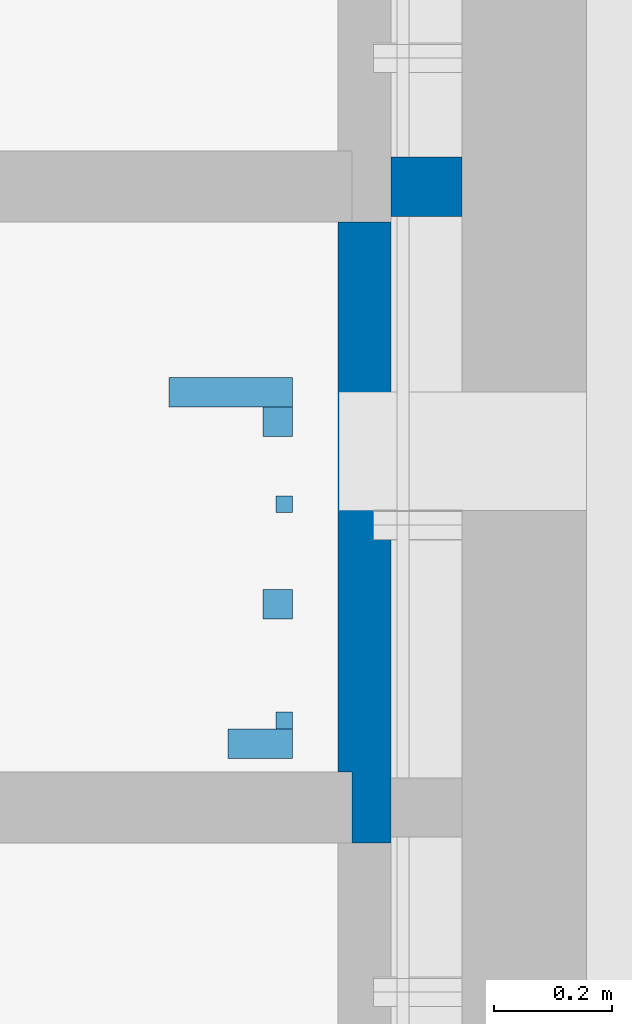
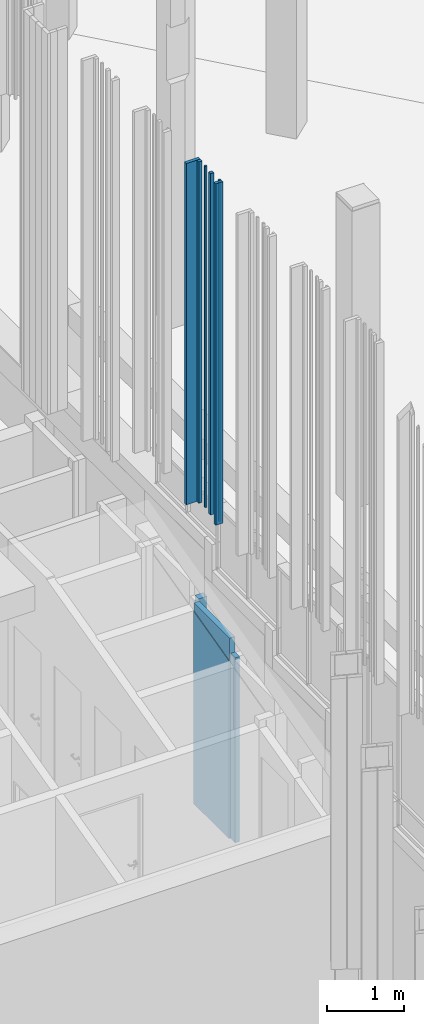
# One storey, part 123 of 390: 8 walls.
"""IFC2X3 building model written with IfcOpenShell, lengths in millimetres."""

from ifc_helpers import new_model, entity, si_unit, converted_unit, derived_unit, money_unit, direction, frame, origin_with_axes, place, context, subcontext, project, spatial, faceted_brep, material, material_list, type_object, element, save


model = new_model("IFC2X3")

# Units and contexts
model_context = context("Model", 3, precision=1e-05, world=origin_with_axes(), true_north=direction((0.0, 1.0)))
body_context = subcontext(model_context, "Body", "Model", "MODEL_VIEW")
ifc_project = project(units=[si_unit("LENGTHUNIT", "METRE", prefix="MILLI"), si_unit("AREAUNIT", "SQUARE_METRE"), si_unit("VOLUMEUNIT", "CUBIC_METRE"), converted_unit("PLANEANGLEUNIT", "DEGREE", entity("IfcPlaneAngleMeasure", 0.0174532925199), si_unit("PLANEANGLEUNIT", "RADIAN"), dimensions=[0, 0, 0, 0, 0, 0, 0]), si_unit("SOLIDANGLEUNIT", "STERADIAN"), money_unit("EUR"), converted_unit("TIMEUNIT", "Year", entity("IfcTimeMeasure", 31556926.0), si_unit("TIMEUNIT", "SECOND"), dimensions=[0, 0, 1, 0, 0, 0, 0]), si_unit("MASSUNIT", "GRAM", prefix="KILO"), si_unit("THERMODYNAMICTEMPERATUREUNIT", "DEGREE_CELSIUS"), si_unit("LUMINOUSINTENSITYUNIT", "LUMEN"), si_unit("ENERGYUNIT", "JOULE", prefix="MEGA"), derived_unit("THERMALCONDUCTANCEUNIT", [(si_unit("POWERUNIT", "WATT"), 1), (si_unit("LENGTHUNIT", "METRE"), -1), (si_unit("THERMODYNAMICTEMPERATUREUNIT", "KELVIN"), -1)]), derived_unit("SPECIFICHEATCAPACITYUNIT", [(si_unit("ENERGYUNIT", "JOULE"), 1), (si_unit("MASSUNIT", "GRAM", prefix="KILO"), -1), (si_unit("THERMODYNAMICTEMPERATUREUNIT", "KELVIN"), -1)]), derived_unit("MASSDENSITYUNIT", [(si_unit("MASSUNIT", "GRAM", prefix="KILO"), 1), (si_unit("VOLUMEUNIT", "CUBIC_METRE"), -1)])], contexts=[model_context])

# Site, building, storey
site_placement = place(None, origin_with_axes())
site = spatial("IfcSite", under=ifc_project, at=site_placement, Name="Site", CompositionType="ELEMENT")
building_placement = place(site_placement, origin_with_axes())
building = spatial("IfcBuilding", under=site, at=building_placement, Name="Building", CompositionType="ELEMENT")
storey_placement = place(building_placement, origin_with_axes())
storey = spatial("IfcBuildingStorey", under=building, at=storey_placement, Name="1 korrus", CompositionType="ELEMENT", Elevation=0.0)

# Walls
ifc_material_1 = material(Name="Müüriplokk - Konstuktsioon")
wall_type_1 = type_object("IfcWallType", Name="SS-09", PredefinedType="NOTDEFINED")
wall_1_placement = place(storey_placement, frame((122580.000001, 63210.00001, -620.0), z_axis=(0.0, 0.0, 1.0), x_axis=(1.0, 0.0, 0.0)))
element("IfcWall", 1, at=wall_1_placement, inside=storey, type_object=wall_type_1, material=ifc_material_1, Name="SS-09", context=body_context, shape_type="Brep", body=[
    faceted_brep([(119.99999443, -100.0, 3220.31405444), (119.999994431, 0.0, 3220.31405444), (0.0, 0.0, 3220.31405444), (0.0, -100.0, 3220.31405444), (119.99999443, -100.0, 0.0), (119.999994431, 0.0, 0.0), (0.0, 0.0, 0.0), (0.0, -100.0, 0.0)], [[[0, 1, 2, 3]], [[1, 0, 4, 5]], [[1, 5, 6, 2]], [[7, 3, 2, 6]], [[4, 0, 3, 7]], [[5, 4, 7, 6]]]),
])
ifc_material_2 = material(Name="Site specified")
wall_type_2 = type_object("IfcWallType", Name="Puitfassaadi ribistik", PredefinedType="NOTDEFINED")
wall_2_placement = place(storey_placement, frame((122398.999994, 62623.0003213, 4424.99966101), z_axis=(0.0, 0.0, 1.0), x_axis=(-4.22595063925e-09, 1.0, 0.0)))
element("IfcWall", 2, at=wall_2_placement, inside=storey, type_object=wall_type_2, material=ifc_material_2, Name="Site specified", context=body_context, shape_type="Brep", body=[
    faceted_brep([(14.0, 14.0, 5440.00033899), (14.0, 14.0, 0.0), (-14.0, 14.0, 0.0), (-14.0, 14.0, 5440.00033899), (14.0, -14.0, 5440.00033899), (14.0, -14.0, 0.0), (-14.0, -14.0, 0.0), (-14.0, -14.0, 5440.00033899)], [[[0, 1, 2, 3]], [[4, 5, 1, 0]], [[2, 1, 5, 6]], [[3, 2, 6, 7]], [[4, 0, 3, 7]], [[7, 6, 5, 4]]]),
])
wall_3_placement = place(storey_placement, frame((122308.499993, 62812.000321, 4424.99966101), z_axis=(0.0, 0.0, 1.0), x_axis=(-4.22595063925e-09, 1.0, 0.0)))
element("IfcWall", 3, at=wall_3_placement, inside=storey, type_object=wall_type_2, material=ifc_material_2, Name="Site specified", context=body_context, shape_type="Brep", body=[
    faceted_brep([(25.0, 104.5, 5440.00033899), (25.0, 104.5, 0.0), (-25.0, 104.5, 0.0), (-25.0, 104.5, 5440.00033899), (25.0, -104.5, 5440.00033899), (25.0, -104.5, 0.0), (-25.0, -104.5, 0.0), (-25.0, -104.5, 5440.00033899)], [[[0, 1, 2, 3]], [[4, 5, 1, 0]], [[2, 1, 5, 6]], [[3, 2, 6, 7]], [[4, 0, 3, 7]], [[7, 6, 5, 4]]]),
])
wall_4_placement = place(storey_placement, frame((122358.499996, 62218.0003212, 4424.99966101), z_axis=(0.0, 0.0, 1.0), x_axis=(-4.22595063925e-09, 1.0, 0.0)))
element("IfcWall", 4, at=wall_4_placement, inside=storey, type_object=wall_type_2, material=ifc_material_2, Name="Site specified", context=body_context, shape_type="Brep", body=[
    faceted_brep([(25.0, 54.5, 5440.00033899), (25.0, 54.5, 0.0), (-25.0, 54.5, 0.0), (-25.0, 54.5, 5440.00033899), (25.0, -54.5, 5440.00033899), (25.0, -54.5, 0.0), (-25.0, -54.5, 0.0), (-25.0, -54.5, 5440.00033899)], [[[0, 1, 2, 3]], [[4, 5, 1, 0]], [[2, 1, 5, 6]], [[3, 2, 6, 7]], [[4, 0, 3, 7]], [[7, 6, 5, 4]]]),
])
wall_5_placement = place(storey_placement, frame((122398.999996, 62257.0003213, 4424.99966101), z_axis=(0.0, 0.0, 1.0), x_axis=(-4.22595063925e-09, 1.0, 0.0)))
element("IfcWall", 5, at=wall_5_placement, inside=storey, type_object=wall_type_2, material=ifc_material_2, Name="Site specified", context=body_context, shape_type="Brep", body=[
    faceted_brep([(14.0, 14.0, 5440.00033899), (14.0, 14.0, 0.0), (-14.0, 14.0, 0.0), (-14.0, 14.0, 5440.00033899), (14.0, -14.0, 5440.00033899), (14.0, -14.0, 0.0), (-14.0, -14.0, 0.0), (-14.0, -14.0, 5440.00033899)], [[[0, 1, 2, 3]], [[4, 5, 1, 0]], [[2, 1, 5, 6]], [[3, 2, 6, 7]], [[4, 0, 3, 7]], [[7, 6, 5, 4]]]),
])
for number, where, z_axis, x_axis, name in (
    (6, (122387.999994, 62762.0003213, 4424.99966101), (0.0, 0.0, 1.0), (-4.22595063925e-09, 1.0, 0.0), "Site specified"),
    (7, (122387.999995, 62454.0003213, 4424.99966101), (0.0, 0.0, 1.0), (-4.22595063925e-09, 1.0, 0.0), "Site specified"),
):
    element("IfcWall", number, at=place(storey_placement, frame(where, z_axis=z_axis, x_axis=x_axis)), inside=storey, type_object=wall_type_2, material=ifc_material_2, Name=name, context=body_context, shape_type="Brep", body=[
        faceted_brep([(25.0, 25.0, 5440.00033899), (25.0, 25.0, 0.0), (-25.0, 25.0, 0.0), (-25.0, 25.0, 5440.00033899), (25.0, -25.0, 5440.00033899), (25.0, -25.0, 0.0), (-25.0, -25.0, 0.0), (-25.0, -25.0, 5440.00033899)], [[[0, 1, 2, 3]], [[4, 5, 1, 0]], [[2, 1, 5, 6]], [[3, 2, 6, 7]], [[4, 0, 3, 7]], [[7, 6, 5, 4]]]),
    ])
ifc_material_3 = material(Name="Kipsplaat - Veekindel")
ifc_material_4 = material(Name="Teras")
ifc_material_list = material_list([ifc_material_3, ifc_material_3, ifc_material_4])
wall_type_3 = type_object("IfcWallType", Name="SS-14", PredefinedType="NOTDEFINED")
wall_6_placement = place(storey_placement, frame((122490.0, 62170.00001, -620.0), z_axis=(0.0, 0.0, 1.0), x_axis=(1.37067077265e-09, 1.0, 0.0)))
element("IfcWall", 8, at=wall_6_placement, inside=storey, type_object=wall_type_3, material=ifc_material_list, Name="SS-14", context=body_context, shape_type="Brep", body=[
    faceted_brep([(930.0, 1.26900090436e-06, 3068.23605554), (930.000000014, -9.99999929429, 3068.23605554), (930.000000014, -9.99999929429, 3191.64042952), (930.000000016, -12.0, 3191.64042952), (930.000000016, -12.0000000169, 0.0), (930.0, -1.68824954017e-08, 0.0), (0.0, 1.19234755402e-06, 2832.04614431), (1.37063693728e-08, -10.000000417, 2832.04614431), (-1.09650954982e-07, -10.0000003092, 3191.64042952), (-1.06908260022e-07, -12.0, 3191.64042952), (1.64490643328e-08, -12.0000001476, 0.0), (0.0, -1.47608147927e-07, 0.0)], [[[0, 1, 2, 3, 4, 5]], [[1, 0, 6, 7]], [[2, 1, 7, 8]], [[2, 8, 9, 3]], [[9, 10, 4, 3]], [[4, 10, 11, 5]], [[6, 0, 5, 11]], [[7, 6, 11, 10, 9, 8]]]),
    faceted_brep([(1.64490643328e-08, -12.0, 2946.61127132), (1.64490643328e-08, -12.0000001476, 0.0), (3.28981286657e-08, -24.0000001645, 0.0), (3.28981286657e-08, -23.9999988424, 2946.61127132), (-9.04591956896e-08, -23.9999988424, 3191.64042952), (-1.06908260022e-07, -12.0, 3191.64042952), (930.000000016, -12.0, 3191.64042952), (930.000000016, -12.0000000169, 0.0), (930.000000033, -24.0000001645, 0.0), (930.000000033, -23.9999989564, 3191.64042952)], [[[0, 1, 2, 3, 4, 5]], [[0, 5, 6, 7, 1]], [[2, 1, 7, 8]], [[3, 2, 8, 9, 4]], [[9, 6, 5, 4]], [[6, 9, 8, 7]]]),
    faceted_brep([(930.000000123, -90.0000001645, 0.0), (930.000000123, -90.0000001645, 3191.64042952), (0.0, -90.0, 3191.64042952), (0.0, -90.0, 2946.61127132), (-119.999999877, -90.0000001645, 2946.61127132), (-119.999999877, -90.0000001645, 0.0), (930.000000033, -23.9999989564, 3191.64042952), (930.000000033, -24.0000001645, 0.0), (-9.04591956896e-08, -23.9999988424, 3191.64042952), (-9.04591956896e-08, -23.9999988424, 2946.61127132), (-119.999999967, -23.9999990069, 2946.61127132), (-119.999999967, -24.0000001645, 0.0)], [[[0, 1, 2, 3, 4, 5]], [[6, 1, 0, 7]], [[1, 6, 8, 2]], [[9, 3, 2, 8]], [[10, 4, 3, 9]], [[5, 4, 10, 11]], [[7, 0, 5, 11]], [[6, 7, 11, 10, 9, 8]]]),
])

save(model, "model.ifc")
